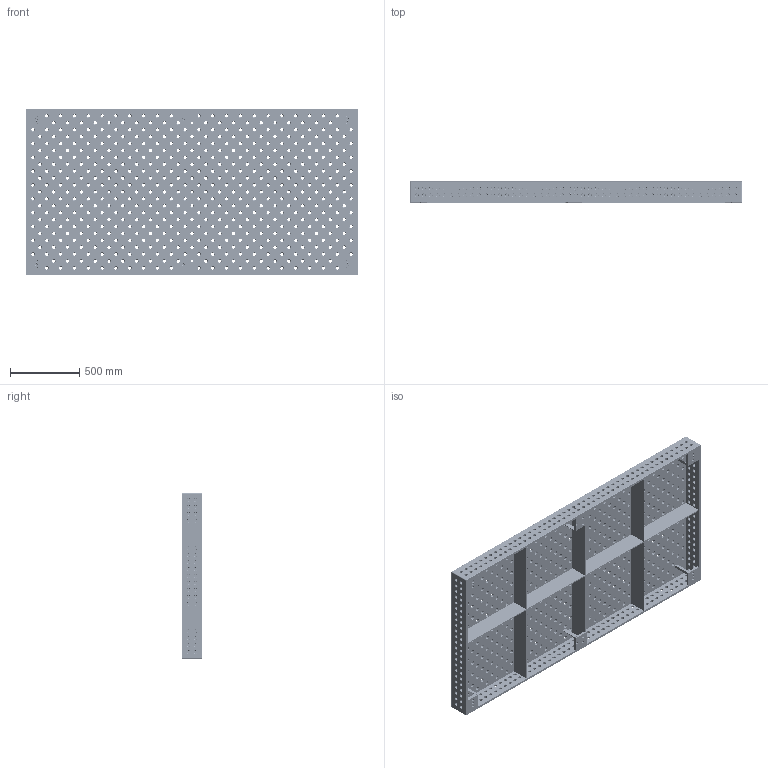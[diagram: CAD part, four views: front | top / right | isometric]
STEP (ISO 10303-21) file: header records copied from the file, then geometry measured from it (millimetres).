
FILE_DESCRIPTION (( 'STEP AP203' ), '1' );
FILE_NAME ('220030.D.STEP', '2020-03-03T07:36:51', ( '' ), ( '' ), 'SwSTEP 2.0', 'SolidWorks 2019', '' );
FILE_SCHEMA (( 'CONFIG_CONTROL_DESIGN' ));
Products named in the file (1): 220030.D
Bounding box: 2400 x 150 x 1200 mm (x, y, z)
Volume: 69881881.7 mm3; surface area: 9675395.7 mm2
Topology: 3 solids, 3 shells, 5167 faces, 12106 edges, 6944 vertices
Faces by surface type: cone 1718, cylinder 1694, torus 1646, plane 101, bspline 8
Entity records: 152955 total; most frequent: DIRECTION 30808, CARTESIAN_POINT 25418, ORIENTED_EDGE 24212, AXIS2_PLACEMENT_3D 13558, EDGE_CURVE 12106, CIRCLE 8398, VERTEX_POINT 6944, EDGE_LOOP 6852
